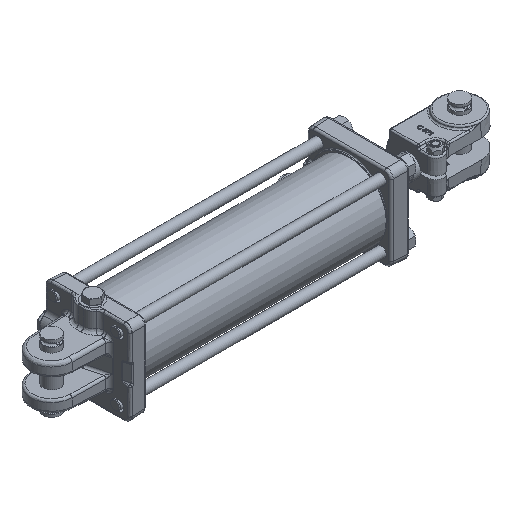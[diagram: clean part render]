
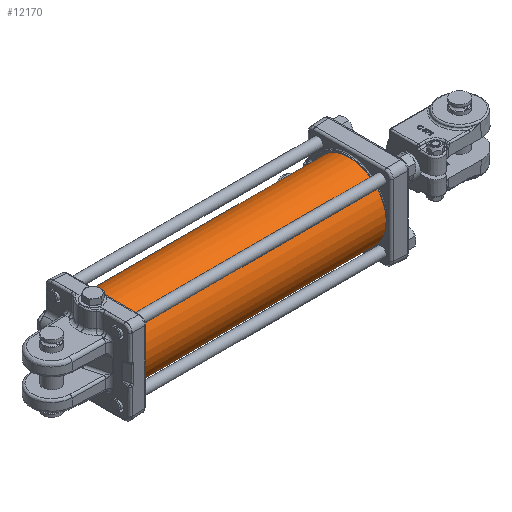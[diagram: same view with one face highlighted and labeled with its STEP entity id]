
A CAD part, isometric view. The second image highlights one B-rep face of the part: STEP entity #12170.
In plain terms, the highlighted cylindrical face has radius 55.562 mm (diameter 111.125 mm), a full revolution.
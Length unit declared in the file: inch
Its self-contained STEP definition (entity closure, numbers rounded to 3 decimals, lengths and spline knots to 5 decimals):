
#2184=CIRCLE($,#13044,2.1875);
#2188=CIRCLE($,#13052,2.1875);
#2939=FACE_BOUND($,#4056,.T.);
#2940=FACE_BOUND($,#4057,.T.);
#2941=FACE_BOUND($,#4058,.T.);
#2942=FACE_BOUND($,#4059,.T.);
#4056=EDGE_LOOP($,(#8449));
#4057=EDGE_LOOP($,(#8450));
#4058=EDGE_LOOP($,(#8451));
#4059=EDGE_LOOP($,(#8452));
#5153=B_SPLINE_CURVE_WITH_KNOTS($,3,(#17742,#17743,#17744,#17745,#17746,
#17747,#17748,#17749,#17750,#17751,#17752,#17753,#17754,#17755,#17756,#17757,
#17758,#17759,#17760,#17761,#17762,#17763,#17764,#17765,#17766,#17767,#17768,
#17769,#17770,#17771,#17772,#17773,#17774,#17775),.UNSPECIFIED.,.T.,.F.,
(4,2,2,2,2,2,2,2,2,2,2,2,2,2,2,2,4),(0.,0.05215,0.10429,
0.15644,0.20859,0.26074,0.31288,
0.36503,0.41718,0.46932,0.52147,
0.57362,0.62576,0.67791,0.73006,
0.78221,0.83435),.UNSPECIFIED.);
#5155=B_SPLINE_CURVE_WITH_KNOTS($,3,(#17813,#17814,#17815,#17816,#17817,
#17818,#17819,#17820,#17821,#17822,#17823,#17824,#17825,#17826,#17827,#17828,
#17829,#17830,#17831,#17832,#17833,#17834,#17835,#17836,#17837,#17838,#17839,
#17840,#17841,#17842,#17843,#17844,#17845,#17846),.UNSPECIFIED.,.T.,.F.,
(4,2,2,2,2,2,2,2,2,2,2,2,2,2,2,2,4),(0.,0.02966,0.05932,
0.08898,0.11864,0.1483,0.17796,
0.20763,0.23729,0.26695,0.29661,
0.32627,0.35593,0.38559,0.41525,
0.44491,0.47457),.UNSPECIFIED.);
#5524=VERTEX_POINT($,#17741);
#5526=VERTEX_POINT($,#17812);
#5528=VERTEX_POINT($,#17850);
#5532=VERTEX_POINT($,#17862);
#6676=EDGE_CURVE($,#5524,#5524,#5153,.T.);
#6678=EDGE_CURVE($,#5526,#5526,#5155,.T.);
#6680=EDGE_CURVE($,#5528,#5528,#2184,.T.);
#6684=EDGE_CURVE($,#5532,#5532,#2188,.T.);
#8449=ORIENTED_EDGE($,*,*,#6676,.T.);
#8450=ORIENTED_EDGE($,*,*,#6678,.T.);
#8451=ORIENTED_EDGE($,*,*,#6680,.F.);
#8452=ORIENTED_EDGE($,*,*,#6684,.T.);
#11952=CYLINDRICAL_SURFACE($,#13053,2.1875);
#12170=ADVANCED_FACE($,(#2939,#2940,#2941,#2942),#11952,.T.);
#13044=AXIS2_PLACEMENT_3D($,#17851,#14400,#14401);
#13052=AXIS2_PLACEMENT_3D($,#17863,#14416,#14417);
#13053=AXIS2_PLACEMENT_3D($,#17864,#14418,#14419);
#14400=DIRECTION('center_axis',(1.,0.,0.));
#14401=DIRECTION('ref_axis',(0.,1.,0.));
#14416=DIRECTION('center_axis',(1.,0.,0.));
#14417=DIRECTION('ref_axis',(0.,1.,0.));
#14418=DIRECTION('center_axis',(1.,0.,0.));
#14419=DIRECTION('ref_axis',(0.,1.,0.));
#17741=CARTESIAN_POINT('',(-0.967,2.18682,0.0545));
#17742=CARTESIAN_POINT('Ctrl Pts',(-0.967,2.18682,0.0545));
#17743=CARTESIAN_POINT('Ctrl Pts',(-0.97384,2.18682,
0.0545));
#17744=CARTESIAN_POINT('Ctrl Pts',(-0.98114,2.18686,
0.05313));
#17745=CARTESIAN_POINT('Ctrl Pts',(-0.99457,2.18698,
0.04757));
#17746=CARTESIAN_POINT('Ctrl Pts',(-1.0007,2.18708,0.04338));
#17747=CARTESIAN_POINT('Ctrl Pts',(-1.01038,2.18725,0.0337));
#17748=CARTESIAN_POINT('Ctrl Pts',(-1.01457,2.18734,0.02757));
#17749=CARTESIAN_POINT('Ctrl Pts',(-1.02013,2.18746,0.01414));
#17750=CARTESIAN_POINT('Ctrl Pts',(-1.0215,2.1875,0.00684));
#17751=CARTESIAN_POINT('Ctrl Pts',(-1.0215,2.1875,-0.00684));
#17752=CARTESIAN_POINT('Ctrl Pts',(-1.02013,2.18746,-0.01414));
#17753=CARTESIAN_POINT('Ctrl Pts',(-1.01457,2.18734,-0.02757));
#17754=CARTESIAN_POINT('Ctrl Pts',(-1.01038,2.18725,-0.0337));
#17755=CARTESIAN_POINT('Ctrl Pts',(-1.0007,2.18708,-0.04338));
#17756=CARTESIAN_POINT('Ctrl Pts',(-0.99457,2.18698,
-0.04757));
#17757=CARTESIAN_POINT('Ctrl Pts',(-0.98114,2.18686,
-0.05313));
#17758=CARTESIAN_POINT('Ctrl Pts',(-0.97384,2.18682,
-0.0545));
#17759=CARTESIAN_POINT('Ctrl Pts',(-0.96016,2.18682,
-0.0545));
#17760=CARTESIAN_POINT('Ctrl Pts',(-0.95286,2.18686,
-0.05313));
#17761=CARTESIAN_POINT('Ctrl Pts',(-0.93943,2.18698,
-0.04757));
#17762=CARTESIAN_POINT('Ctrl Pts',(-0.9333,2.18708,
-0.04338));
#17763=CARTESIAN_POINT('Ctrl Pts',(-0.92362,2.18725,-0.0337));
#17764=CARTESIAN_POINT('Ctrl Pts',(-0.91943,2.18734,
-0.02757));
#17765=CARTESIAN_POINT('Ctrl Pts',(-0.91387,2.18746,
-0.01414));
#17766=CARTESIAN_POINT('Ctrl Pts',(-0.9125,2.1875,-0.00684));
#17767=CARTESIAN_POINT('Ctrl Pts',(-0.9125,2.1875,0.00684));
#17768=CARTESIAN_POINT('Ctrl Pts',(-0.91387,2.18746,
0.01414));
#17769=CARTESIAN_POINT('Ctrl Pts',(-0.91943,2.18734,
0.02757));
#17770=CARTESIAN_POINT('Ctrl Pts',(-0.92362,2.18725,0.0337));
#17771=CARTESIAN_POINT('Ctrl Pts',(-0.9333,2.18708,
0.04338));
#17772=CARTESIAN_POINT('Ctrl Pts',(-0.93943,2.18698,
0.04757));
#17773=CARTESIAN_POINT('Ctrl Pts',(-0.95286,2.18686,
0.05313));
#17774=CARTESIAN_POINT('Ctrl Pts',(-0.96016,2.18682,
0.0545));
#17775=CARTESIAN_POINT('Ctrl Pts',(-0.967,2.18682,0.0545));
#17812=CARTESIAN_POINT('',(-1.347,2.18728,0.031));
#17813=CARTESIAN_POINT('Ctrl Pts',(-1.347,2.18728,0.031));
#17814=CARTESIAN_POINT('Ctrl Pts',(-1.35089,2.18728,0.031));
#17815=CARTESIAN_POINT('Ctrl Pts',(-1.35504,2.18729,0.03022));
#17816=CARTESIAN_POINT('Ctrl Pts',(-1.36268,2.18733,0.02706));
#17817=CARTESIAN_POINT('Ctrl Pts',(-1.36617,2.18736,0.02467));
#17818=CARTESIAN_POINT('Ctrl Pts',(-1.37167,2.18742,0.01917));
#17819=CARTESIAN_POINT('Ctrl Pts',(-1.37406,2.18745,0.01568));
#17820=CARTESIAN_POINT('Ctrl Pts',(-1.37722,2.18749,0.00804));
#17821=CARTESIAN_POINT('Ctrl Pts',(-1.378,2.1875,0.00389));
#17822=CARTESIAN_POINT('Ctrl Pts',(-1.378,2.1875,-0.00389));
#17823=CARTESIAN_POINT('Ctrl Pts',(-1.37722,2.18749,-0.00804));
#17824=CARTESIAN_POINT('Ctrl Pts',(-1.37406,2.18745,-0.01568));
#17825=CARTESIAN_POINT('Ctrl Pts',(-1.37167,2.18742,-0.01917));
#17826=CARTESIAN_POINT('Ctrl Pts',(-1.36617,2.18736,-0.02467));
#17827=CARTESIAN_POINT('Ctrl Pts',(-1.36268,2.18733,-0.02706));
#17828=CARTESIAN_POINT('Ctrl Pts',(-1.35504,2.18729,-0.03022));
#17829=CARTESIAN_POINT('Ctrl Pts',(-1.35089,2.18728,-0.031));
#17830=CARTESIAN_POINT('Ctrl Pts',(-1.34311,2.18728,-0.031));
#17831=CARTESIAN_POINT('Ctrl Pts',(-1.33896,2.18729,-0.03022));
#17832=CARTESIAN_POINT('Ctrl Pts',(-1.33132,2.18733,-0.02706));
#17833=CARTESIAN_POINT('Ctrl Pts',(-1.32783,2.18736,-0.02467));
#17834=CARTESIAN_POINT('Ctrl Pts',(-1.32233,2.18742,-0.01917));
#17835=CARTESIAN_POINT('Ctrl Pts',(-1.31994,2.18745,-0.01568));
#17836=CARTESIAN_POINT('Ctrl Pts',(-1.31678,2.18749,-0.00804));
#17837=CARTESIAN_POINT('Ctrl Pts',(-1.316,2.1875,-0.00389));
#17838=CARTESIAN_POINT('Ctrl Pts',(-1.316,2.1875,0.00389));
#17839=CARTESIAN_POINT('Ctrl Pts',(-1.31678,2.18749,0.00804));
#17840=CARTESIAN_POINT('Ctrl Pts',(-1.31994,2.18745,0.01568));
#17841=CARTESIAN_POINT('Ctrl Pts',(-1.32233,2.18742,0.01917));
#17842=CARTESIAN_POINT('Ctrl Pts',(-1.32783,2.18736,0.02467));
#17843=CARTESIAN_POINT('Ctrl Pts',(-1.33132,2.18733,0.02706));
#17844=CARTESIAN_POINT('Ctrl Pts',(-1.33896,2.18729,0.03022));
#17845=CARTESIAN_POINT('Ctrl Pts',(-1.34311,2.18728,0.031));
#17846=CARTESIAN_POINT('Ctrl Pts',(-1.347,2.18728,0.031));
#17850=CARTESIAN_POINT('',(0.,2.1875,0.));
#17851=CARTESIAN_POINT('Origin',(0.,0.,0.));
#17862=CARTESIAN_POINT('',(-14.46875,2.1875,0.));
#17863=CARTESIAN_POINT('Origin',(-14.46875,0.,0.));
#17864=CARTESIAN_POINT('Origin',(-7.23438,0.,0.));
